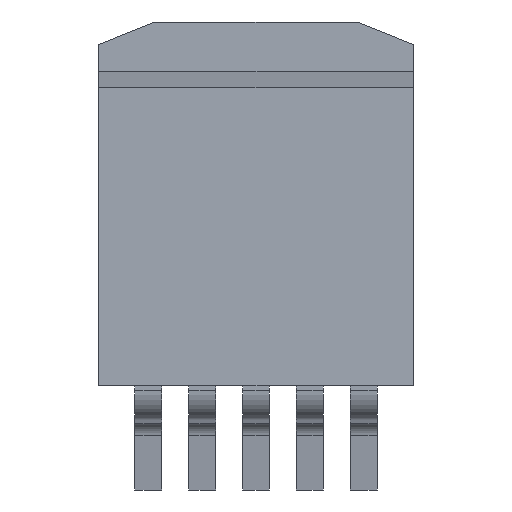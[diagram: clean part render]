
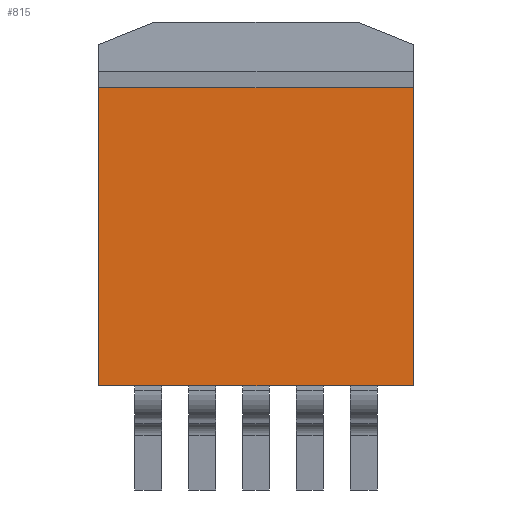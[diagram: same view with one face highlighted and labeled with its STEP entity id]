
A CAD part, top view. The second image highlights one B-rep face of the part: STEP entity #815.
In plain terms, the highlighted planar face has unit normal (0, 0, 1).
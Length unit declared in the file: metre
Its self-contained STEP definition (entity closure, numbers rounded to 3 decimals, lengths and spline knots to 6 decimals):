
#367 = EDGE_CURVE( '', #997, #998, #999, .T. );
#561 = EDGE_CURVE( '', #1108, #1292, #1293, .T. );
#679 = EDGE_CURVE( '', #998, #1108, #1441, .T. );
#743 = EDGE_CURVE( '', #997, #1292, #1515, .T. );
#815 = ADVANCED_FACE( '', ( #1598 ), #1599, .T. );
#997 = VERTEX_POINT( '', #1826 );
#998 = VERTEX_POINT( '', #1827 );
#999 = LINE( '', #1828, #1829 );
#1108 = VERTEX_POINT( '', #1976 );
#1292 = VERTEX_POINT( '', #2252 );
#1293 = LINE( '', #2253, #2254 );
#1441 = LINE( '', #2471, #2472 );
#1515 = LINE( '', #2592, #2593 );
#1598 = FACE_OUTER_BOUND( '', #2720, .T. );
#1599 = PLANE( '', #2721 );
#1826 = CARTESIAN_POINT( '', ( -0.005334, 0.005714, 0.004915 ) );
#1827 = CARTESIAN_POINT( '', ( -0.005334, -0.004389, 0.004915 ) );
#1828 = CARTESIAN_POINT( '', ( -0.005334, 0.006279, 0.004915 ) );
#1829 = VECTOR( '', #2916, 1. );
#1976 = CARTESIAN_POINT( '', ( 0.005334, -0.004389, 0.004915 ) );
#2252 = CARTESIAN_POINT( '', ( 0.005334, 0.005714, 0.004915 ) );
#2253 = CARTESIAN_POINT( '', ( 0.005334, 0.006279, 0.004915 ) );
#2254 = VECTOR( '', #3227, 1. );
#2471 = CARTESIAN_POINT( '', ( -0.005334, -0.004389, 0.004915 ) );
#2472 = VECTOR( '', #3472, 1. );
#2592 = CARTESIAN_POINT( '', ( -0.005334, 0.005714, 0.004915 ) );
#2593 = VECTOR( '', #3563, 1. );
#2720 = EDGE_LOOP( '', ( #3701, #3702, #3703, #3704 ) );
#2721 = AXIS2_PLACEMENT_3D( '', #3705, #3706, #3707 );
#2916 = DIRECTION( '', ( 0., -1., 0. ) );
#3227 = DIRECTION( '', ( 0., 1., 0. ) );
#3472 = DIRECTION( '', ( 1., 0., 0. ) );
#3563 = DIRECTION( '', ( 1., 0., 0. ) );
#3701 = ORIENTED_EDGE( '', *, *, #743, .F. );
#3702 = ORIENTED_EDGE( '', *, *, #367, .T. );
#3703 = ORIENTED_EDGE( '', *, *, #679, .T. );
#3704 = ORIENTED_EDGE( '', *, *, #561, .T. );
#3705 = CARTESIAN_POINT( '', ( 0., -0.004389, 0.004915 ) );
#3706 = DIRECTION( '', ( 0., 0., 1. ) );
#3707 = DIRECTION( '', ( 1., 0., 0. ) );
